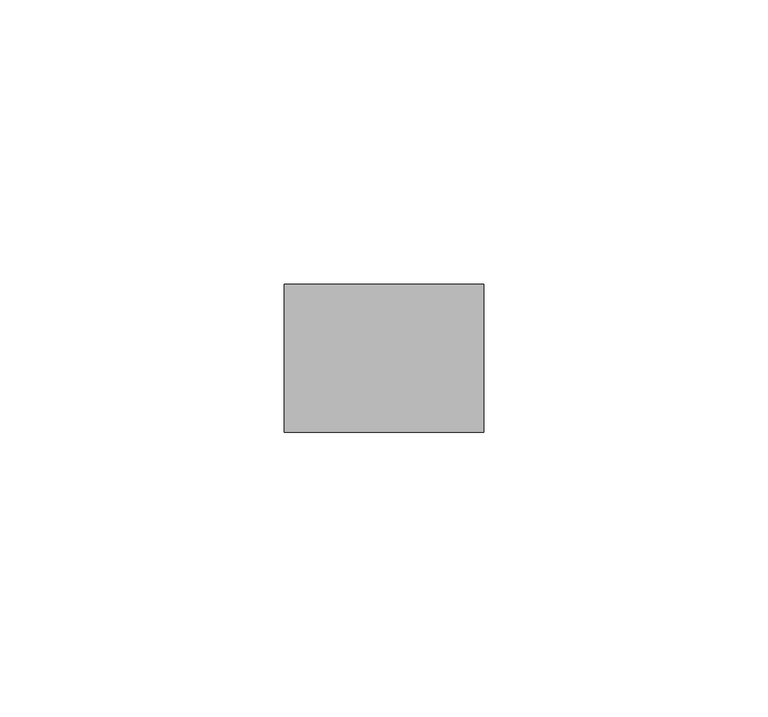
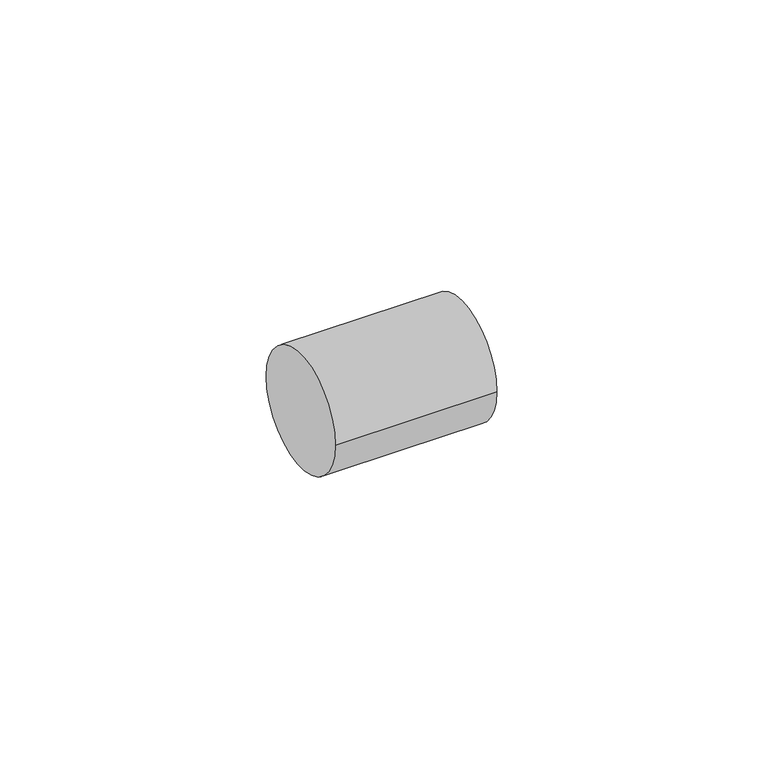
"""IFC4 building model written with IfcOpenShell, lengths in millimetres: pipe fitting geometry, 01051005 : Manchons égaux."""

from ifc_helpers import new_model, si_unit, point, frame, origin, origin_2d, place, context, project, spatial, circle_curve, trimmed, segment, composite_curve, outline, extrude, source, transform, mapped, element, save


def pipe_fitting_769d59fb(model_context):
    return source(origin(), model_context, "Body", "SweptSolid", [
        extrude(outline(composite_curve([segment(trimmed(circle_curve(origin_2d(), 13.0), [point((-13.0, 0.0))], [point((13.0, 0.0))], False, "CARTESIAN"), True, "CONTINUOUS"), segment(trimmed(circle_curve(origin_2d(), 13.0), [point((13.0, 0.0))], [point((-13.0, 0.0))], False, "CARTESIAN"), True, "CONTINUOUS")], self_intersect=False)), frame((-17.5, 0.0, 0.0), z_axis=(1.0, 0.0, 0.0), x_axis=(0.0, 1.0, 0.0)), (0.0, 0.0, 1.0), 35.0),
    ])


if __name__ == "__main__":
    model = new_model("IFC4")
    model_context = context("Model", 3, world=origin())
    ifc_project = project(units=[si_unit("LENGTHUNIT", "METRE", prefix="MILLI")], contexts=[model_context])
    site = spatial("IfcSite", under=ifc_project)
    building = spatial("IfcBuilding", under=site)
    placement = place(None, origin())
    pipe_fitting_shape = pipe_fitting_769d59fb(model_context)
    element("IfcPipeFitting", 1, ObjectType="01051005 : Manchons égaux", at=placement, inside=building, context=model_context, shape_type="MappedRepresentation", body=[
        mapped(pipe_fitting_shape, transform((0.0, 0.0, 0.0), x_axis=(1.0, 0.0, 0.0), y_axis=(0.0, 1.0, 0.0), z_axis=(0.0, 0.0, 1.0))),
    ])
    save(model, "model.ifc")
